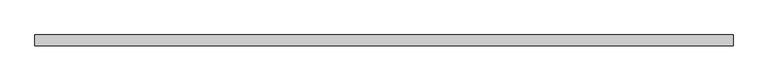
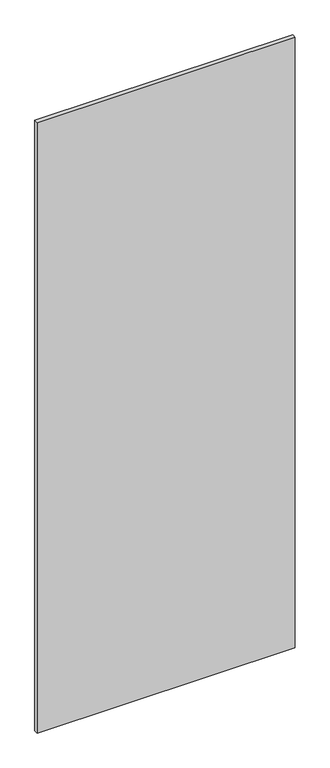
"""IFC4 building model written with IfcOpenShell, lengths in millimetres: proxy geometry, Cladding Board_iWood_MDF Panel_American Walnut : Cladding Board_iWood_MDF Panel_American Walnut."""

import ifcopenshell
import ifcopenshell.guid

model = None  # the IFC model being written
_history = None  # IfcOwnerHistory: only IFC2X3 demands one
_inside = {}  # id of a spatial element -> (the spatial element, [elements in it])
_under = {}  # id of a project, library or spatial element -> (it, [spatial elements below it])
_declared = {}  # id of a project -> (the project, [libraries it declares])
_typed = {}  # id of a type object -> (the type object, [elements of that type])
_made_of = {}  # id of a material, layer set ... -> (it, [elements and type objects made of it])


def new_model(schema):
    """Start an empty IFC model of exactly this schema.

    Asked for "IFC4X3", IfcOpenShell would pick the latest addendum, in which some entities
    have other attributes; the version numbers below select the first issue.
    IFC2X3 requires an IfcOwnerHistory on every rooted entity: one is made here for all.
    """
    global model, _history
    if schema == "IFC4X3":
        model = ifcopenshell.file(schema_version=(4, 3, 0, 0))
    else:
        model = ifcopenshell.file(schema=schema)
    _inside.clear()
    _under.clear()
    _declared.clear()
    _typed.clear()
    _made_of.clear()
    _history = None
    if model.schema == "IFC2X3":
        org = make("IfcOrganization", Name="unknown")
        user = make(
            "IfcPersonAndOrganization",
            ThePerson=make("IfcPerson", FamilyName="unknown"),
            TheOrganization=org,
        )
        app = make(
            "IfcApplication",
            ApplicationDeveloper=org,
            Version="unknown",
            ApplicationFullName="unknown",
            ApplicationIdentifier="unknown",
        )
        _history = make(
            "IfcOwnerHistory",
            OwningUser=user,
            OwningApplication=app,
            ChangeAction="ADDED",
            CreationDate=0,
        )
    return model


def make(cls, **values):
    """One entity of the class cls with the attributes given. An attribute that is None is left unset."""
    return model.create_entity(
        cls, **{name: value for name, value in values.items() if value is not None}
    )


def rooted(cls, **values):
    """An entity with a GlobalId (a new one), such as an element, a storey or a relation."""
    return make(cls, GlobalId=ifcopenshell.guid.new(), OwnerHistory=_history, **values)


def si_unit(unit_type, name, prefix=None):
    """IfcSIUnit, for example si_unit("LENGTHUNIT", "METRE", prefix="MILLI")."""
    return make("IfcSIUnit", UnitType=unit_type, Prefix=prefix, Name=name)


def assignment(units):
    """IfcUnitAssignment: the units of a project."""
    return None if units is None else make("IfcUnitAssignment", Units=units)


def point(xyz):
    """IfcCartesianPoint."""
    return None if xyz is None else make("IfcCartesianPoint", Coordinates=xyz)


def direction(xyz):
    """IfcDirection."""
    return None if xyz is None else make("IfcDirection", DirectionRatios=xyz)


def frame(location, z_axis=None, x_axis=None):
    """IfcAxis2Placement3D, a coordinate frame: its origin and axes. An axis left out is left unset."""
    return make(
        "IfcAxis2Placement3D",
        Location=point(location),
        Axis=direction(z_axis),
        RefDirection=direction(x_axis),
    )


def origin():
    """The frame at (0, 0, 0) with its axes left unset."""
    return frame((0.0, 0.0, 0.0))


def origin_with_axes():
    """The frame at (0, 0, 0) with the z axis (0, 0, 1) and the x axis (1, 0, 0) written out."""
    return frame((0.0, 0.0, 0.0), z_axis=(0.0, 0.0, 1.0), x_axis=(1.0, 0.0, 0.0))


def place(relative_to, where):
    """IfcLocalPlacement: puts the frame where relative to a parent placement (None: the world)."""
    return make(
        "IfcLocalPlacement", PlacementRelTo=relative_to, RelativePlacement=where
    )


def context(
    kind, dimensions, precision=None, world=None, true_north=None, identifier=None
):
    """IfcGeometricRepresentationContext, for example the 3D "Model" context."""
    return make(
        "IfcGeometricRepresentationContext",
        ContextIdentifier=identifier,
        ContextType=kind,
        CoordinateSpaceDimension=dimensions,
        Precision=precision,
        WorldCoordinateSystem=world,
        TrueNorth=true_north,
    )


def project(units=None, contexts=None):
    """IfcProject with its units and contexts."""
    return rooted(
        "IfcProject",
        Name="project",
        RepresentationContexts=contexts,
        UnitsInContext=assignment(units),
    )


def spatial(cls, under=None, at=None, **own):
    """A site, building, storey or space (cls), placed at a placement, below another one or the project."""
    s = rooted(cls, ObjectPlacement=at, **own)
    if under is not None:
        _under.setdefault(under.id(), (under, []))[1].append(s)
    return s


def polyline(points):
    """IfcPolyline through the points."""
    return make("IfcPolyline", Points=[point(p) for p in points])


def outline(outer, holes=None, kind="AREA"):
    """IfcArbitraryClosedProfileDef: a profile drawn as a closed curve; with holes, ...WithVoids."""
    if holes is None:
        return make("IfcArbitraryClosedProfileDef", ProfileType=kind, OuterCurve=outer)
    return make(
        "IfcArbitraryProfileDefWithVoids",
        ProfileType=kind,
        OuterCurve=outer,
        InnerCurves=holes,
    )


def extrude(swept, where, along, depth):
    """IfcExtrudedAreaSolid: the profile swept, set in the frame where, extruded along a direction by depth."""
    return make(
        "IfcExtrudedAreaSolid",
        SweptArea=swept,
        Position=where,
        ExtrudedDirection=direction(along),
        Depth=depth,
    )


def shape(context_of_items, identifier, shape_type, items):
    """IfcShapeRepresentation: the items that make up one representation, for example the "Body"."""
    return make(
        "IfcShapeRepresentation",
        ContextOfItems=context_of_items,
        RepresentationIdentifier=identifier,
        RepresentationType=shape_type,
        Items=items,
    )


def source(mapping_origin, context_of_items, identifier, shape_type, items):
    """IfcRepresentationMap: a shape defined once, which mapped items show again and again."""
    return make(
        "IfcRepresentationMap",
        MappingOrigin=mapping_origin,
        MappedRepresentation=shape(context_of_items, identifier, shape_type, items),
    )


def transform(
    local_origin,
    x_axis=None,
    y_axis=None,
    z_axis=None,
    scale=None,
    scale2=None,
    scale3=None,
    uniform=True,
):
    """IfcCartesianTransformationOperator3D, or its non-uniform kind. x_axis, y_axis, z_axis: its Axis1, 2, 3."""
    if uniform:
        return make(
            "IfcCartesianTransformationOperator3D",
            Axis1=direction(x_axis),
            Axis2=direction(y_axis),
            LocalOrigin=point(local_origin),
            Scale=scale,
            Axis3=direction(z_axis),
        )
    return make(
        "IfcCartesianTransformationOperator3DnonUniform",
        Axis1=direction(x_axis),
        Axis2=direction(y_axis),
        LocalOrigin=point(local_origin),
        Scale=scale,
        Axis3=direction(z_axis),
        Scale2=scale2,
        Scale3=scale3,
    )


def mapped(mapping_source, mapping_target):
    """IfcMappedItem: shows the shape of a source again, moved by a transform."""
    return make(
        "IfcMappedItem", MappingSource=mapping_source, MappingTarget=mapping_target
    )


def made_of(thing, what):
    """Note that an element or type object is made of a material, layer set ...; save() writes the relation."""
    if what is not None:
        _made_of.setdefault(what.id(), (what, []))[1].append(thing)
    return thing


def element(
    cls,
    number,
    at=None,
    inside=None,
    cuts=None,
    type_object=None,
    material=None,
    context=None,
    identifier="Body",
    shape_type=None,
    held_by="IfcProductDefinitionShape",
    body=None,
    shapes=None,
    **own,
):
    """One element of the class cls, such as IfcWall. Its Tag is "e" and its number.

    at: its placement. inside: the storey or other place that contains it. cuts: it is an
    opening in that element (IfcRelVoidsElement). A single representation is given by context,
    identifier, shape_type and body (its items); several are given by shapes. held_by: the class
    of the entity that holds the representations. save() writes the other relations.
    """
    e = rooted(cls, Tag="e%d" % number, ObjectPlacement=at, **own)
    if body is not None:
        shapes = [shape(context, identifier, shape_type, body)]
    if shapes is not None:
        e.Representation = make(held_by, Representations=shapes)
    if inside is not None:
        _inside.setdefault(inside.id(), (inside, []))[1].append(e)
    if cuts is not None:
        rooted(
            "IfcRelVoidsElement", RelatingBuildingElement=cuts, RelatedOpeningElement=e
        )
    if type_object is not None:
        _typed.setdefault(type_object.id(), (type_object, []))[1].append(e)
    return made_of(e, material)


def aggregate(whole, parts):
    """IfcRelAggregates: a whole, such as a stair, and the parts it consists of."""
    return rooted("IfcRelAggregates", RelatingObject=whole, RelatedObjects=parts)


def save(model, path):
    """Write the relations noted so far, then the file.

    IfcRelAggregates (storeys below a building ...), IfcRelContainedInSpatialStructure (elements
    in a storey), IfcRelDefinesByType, IfcRelAssociatesMaterial and IfcRelDeclares: one each for
    every whole, place, type object, material and project.
    """
    for whole, parts in _under.values():
        aggregate(whole, parts)
    for where, things in _inside.values():
        rooted(
            "IfcRelContainedInSpatialStructure",
            RelatedElements=things,
            RelatingStructure=where,
        )
    for kind, things in _typed.values():
        rooted("IfcRelDefinesByType", RelatedObjects=things, RelatingType=kind)
    for what, things in _made_of.values():
        rooted("IfcRelAssociatesMaterial", RelatedObjects=things, RelatingMaterial=what)
    for by, libraries in _declared.values():
        rooted("IfcRelDeclares", RelatingContext=by, RelatedDefinitions=libraries)
    model.write(path)


def generic_models_9aff09e2(model_context):
    return source(origin(), model_context, "Body", "SweptSolid", [
        extrude(outline(polyline([(1160.0, 1978.2525449), (1160.0, 1959.2525449), (-60.0, 1959.2525449), (-60.0, 1978.2525449), (1160.0, 1978.2525449)])), origin_with_axes(), (0.0, 0.0, 1.0), 3050.0),
    ])


if __name__ == "__main__":
    model = new_model("IFC4")
    model_context = context("Model", 3, world=origin())
    ifc_project = project(units=[si_unit("LENGTHUNIT", "METRE", prefix="MILLI")], contexts=[model_context])
    site = spatial("IfcSite", under=ifc_project)
    building = spatial("IfcBuilding", under=site)
    placement = place(None, origin())
    generic_models_shape = generic_models_9aff09e2(model_context)
    element("IfcBuildingElementProxy", 1, Name="Cladding Board_iWood_MDF Panel_American Walnut : Cladding Board_iWood_MDF Panel_American Walnut", ObjectType="Cladding Board_iWood_MDF Panel_American Walnut : Cladding Board_iWood_MDF Panel_American Walnut", at=placement, inside=building, context=model_context, shape_type="MappedRepresentation", body=[
        mapped(generic_models_shape, transform((0.0, 0.0, 0.0), x_axis=(1.0, 0.0, 0.0), y_axis=(0.0, 1.0, 0.0), z_axis=(0.0, 0.0, 1.0))),
    ])
    save(model, "model.ifc")
